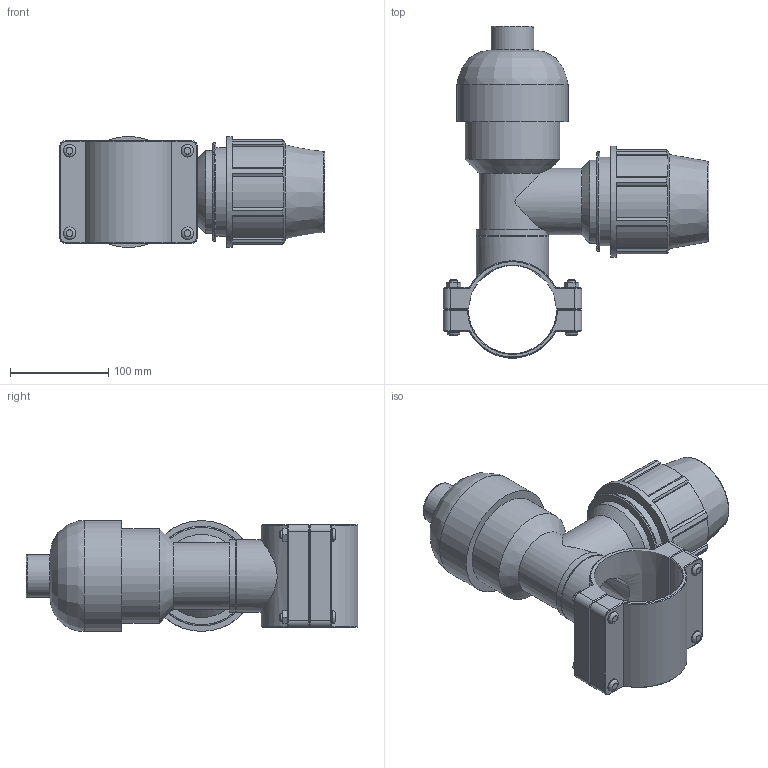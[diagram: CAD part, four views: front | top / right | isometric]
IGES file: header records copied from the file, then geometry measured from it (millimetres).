
Global section: file name: 186800090063.ipt; native system: Autodesk Inventor 2015; preprocessor: unknown; author: KIM; date: 20170618.094022; units: millimetre
Bounding box: 270.5 x 338.32 x 113.31 mm (x, y, z)
Volume: 2047280.2 mm3; surface area: 288832.8 mm2
Topology: 1 solids, 1 shells, 227 faces, 568 edges, 366 vertices
Faces by surface type: plane 136, cylinder 44, cone 29, revolution 18
Full cylindrical faces by diameter (mm): 8 x4, 13 x8, 43.598 x1, 56.656 x1, 67.8 x1, 73.653 x2, 84.75 x1, 90.4 x1, 96.315 x1, 101.7 x1, 113 x1, 113.312 x1
